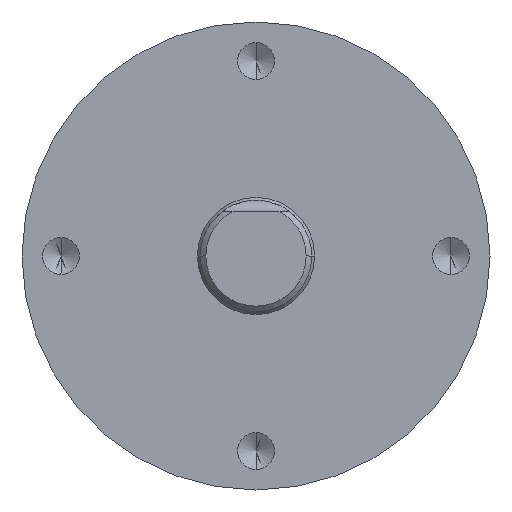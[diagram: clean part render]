
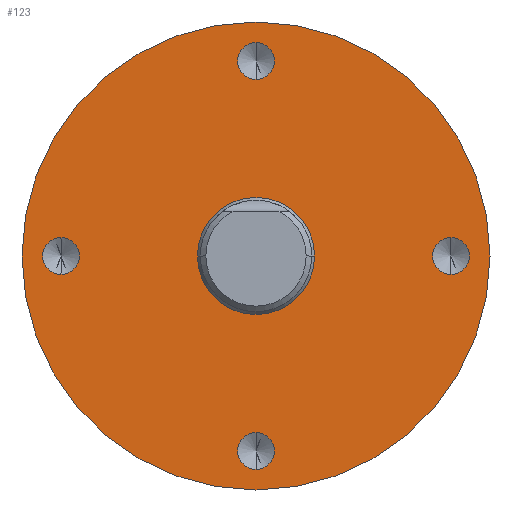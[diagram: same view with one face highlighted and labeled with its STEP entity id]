
A CAD part, front view. The second image highlights one B-rep face of the part: STEP entity #123.
In plain terms, the highlighted planar face has unit normal (0, -1, 0).
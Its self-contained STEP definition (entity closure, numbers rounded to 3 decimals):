
#4 = EDGE_CURVE ( 'NONE', #5, #95, #578, .T. ) ;
#5 = VERTEX_POINT ( 'NONE', #573 ) ;
#26 = VERTEX_POINT ( 'NONE', #451 ) ;
#28 = VERTEX_POINT ( 'NONE', #488 ) ;
#32 = EDGE_CURVE ( 'NONE', #28, #207, #486, .T. ) ;
#38 = VERTEX_POINT ( 'NONE', #473 ) ;
#41 = EDGE_CURVE ( 'NONE', #38, #26, #628, .T. ) ;
#95 = VERTEX_POINT ( 'NONE', #713 ) ;
#115 = VERTEX_POINT ( 'NONE', #756 ) ;
#122 = EDGE_CURVE ( 'NONE', #312, #115, #773, .T. ) ;
#123 = ADVANCED_FACE ( 'NONE', ( #742, #741, #740, #739, #738, #737 ), #736, .F. ) ;
#154 = VERTEX_POINT ( 'NONE', #825 ) ;
#172 = EDGE_CURVE ( 'NONE', #240, #239, #880, .T. ) ;
#173 = EDGE_LOOP ( 'NONE', ( #310, #311 ) ) ;
#207 = VERTEX_POINT ( 'NONE', #1068 ) ;
#238 = EDGE_CURVE ( 'NONE', #239, #240, #1056, .T. ) ;
#239 = VERTEX_POINT ( 'NONE', #1051 ) ;
#240 = VERTEX_POINT ( 'NONE', #1050 ) ;
#244 = EDGE_CURVE ( 'NONE', #154, #266, #959, .T. ) ;
#266 = VERTEX_POINT ( 'NONE', #1122 ) ;
#275 = EDGE_LOOP ( 'NONE', ( #276, #278 ) ) ;
#276 = ORIENTED_EDGE ( 'NONE', *, *, #277, .F. ) ;
#277 = EDGE_CURVE ( 'NONE', #95, #5, #1109, .T. ) ;
#278 = ORIENTED_EDGE ( 'NONE', *, *, #4, .F. ) ;
#282 = EDGE_LOOP ( 'NONE', ( #283, #284 ) ) ;
#283 = ORIENTED_EDGE ( 'NONE', *, *, #238, .F. ) ;
#284 = ORIENTED_EDGE ( 'NONE', *, *, #172, .F. ) ;
#291 = ORIENTED_EDGE ( 'NONE', *, *, #32, .F. ) ;
#292 = EDGE_LOOP ( 'NONE', ( #343, #348 ) ) ;
#293 = ORIENTED_EDGE ( 'NONE', *, *, #294, .F. ) ;
#294 = EDGE_CURVE ( 'NONE', #207, #28, #1128, .T. ) ;
#310 = ORIENTED_EDGE ( 'NONE', *, *, #366, .T. ) ;
#311 = ORIENTED_EDGE ( 'NONE', *, *, #122, .T. ) ;
#312 = VERTEX_POINT ( 'NONE', #1106 ) ;
#321 = EDGE_LOOP ( 'NONE', ( #322, #363 ) ) ;
#322 = ORIENTED_EDGE ( 'NONE', *, *, #323, .F. ) ;
#323 = EDGE_CURVE ( 'NONE', #266, #154, #1130, .T. ) ;
#333 = EDGE_LOOP ( 'NONE', ( #293, #291 ) ) ;
#343 = ORIENTED_EDGE ( 'NONE', *, *, #344, .F. ) ;
#344 = EDGE_CURVE ( 'NONE', #26, #38, #1278, .T. ) ;
#348 = ORIENTED_EDGE ( 'NONE', *, *, #41, .F. ) ;
#363 = ORIENTED_EDGE ( 'NONE', *, *, #244, .F. ) ;
#366 = EDGE_CURVE ( 'NONE', #115, #312, #1169, .T. ) ;
#451 = CARTESIAN_POINT ( 'NONE',  ( 17.5, -24.6, 1.65 ) ) ;
#473 = CARTESIAN_POINT ( 'NONE',  ( 17.5, -24.6, -1.65 ) ) ;
#482 = DIRECTION ( 'NONE',  ( 0., 0., 1. ) ) ;
#483 = DIRECTION ( 'NONE',  ( 0., -1., 0. ) ) ;
#484 = CARTESIAN_POINT ( 'NONE',  ( 0., -24.6, 17.5 ) ) ;
#485 = AXIS2_PLACEMENT_3D ( 'NONE', #484, #483, #482 ) ;
#486 = CIRCLE ( 'NONE', #485, 1.65 ) ;
#488 = CARTESIAN_POINT ( 'NONE',  ( 0., -24.6, 15.85 ) ) ;
#573 = CARTESIAN_POINT ( 'NONE',  ( -17.5, -24.6, -1.65 ) ) ;
#574 = DIRECTION ( 'NONE',  ( 0., 0., 1. ) ) ;
#575 = DIRECTION ( 'NONE',  ( 0., -1., 0. ) ) ;
#576 = CARTESIAN_POINT ( 'NONE',  ( -17.5, -24.6, 0. ) ) ;
#577 = AXIS2_PLACEMENT_3D ( 'NONE', #576, #575, #574 ) ;
#578 = CIRCLE ( 'NONE', #577, 1.65 ) ;
#618 = AXIS2_PLACEMENT_3D ( 'NONE', #658, #708, #707 ) ;
#628 = CIRCLE ( 'NONE', #618, 1.65 ) ;
#658 = CARTESIAN_POINT ( 'NONE',  ( 17.5, -24.6, 0. ) ) ;
#707 = DIRECTION ( 'NONE',  ( 0., 0., 1. ) ) ;
#708 = DIRECTION ( 'NONE',  ( 0., -1., 0. ) ) ;
#713 = CARTESIAN_POINT ( 'NONE',  ( -17.5, -24.6, 1.65 ) ) ;
#732 = DIRECTION ( 'NONE',  ( 0., 0., -1. ) ) ;
#733 = DIRECTION ( 'NONE',  ( 0., 1., 0. ) ) ;
#734 = CARTESIAN_POINT ( 'NONE',  ( -21., -24.6, 0. ) ) ;
#735 = AXIS2_PLACEMENT_3D ( 'NONE', #734, #733, #732 ) ;
#736 = PLANE ( 'NONE',  #735 ) ;
#737 = FACE_OUTER_BOUND ( 'NONE', #173, .T. ) ;
#738 = FACE_BOUND ( 'NONE', #282, .T. ) ;
#739 = FACE_BOUND ( 'NONE', #321, .T. ) ;
#740 = FACE_BOUND ( 'NONE', #292, .T. ) ;
#741 = FACE_BOUND ( 'NONE', #333, .T. ) ;
#742 = FACE_BOUND ( 'NONE', #275, .T. ) ;
#743 = DIRECTION ( 'NONE',  ( 0., 0., 1. ) ) ;
#744 = DIRECTION ( 'NONE',  ( 0., -1., 0. ) ) ;
#756 = CARTESIAN_POINT ( 'NONE',  ( 0., -24.6, 21. ) ) ;
#767 = CARTESIAN_POINT ( 'NONE',  ( 0., -24.6, 0. ) ) ;
#768 = AXIS2_PLACEMENT_3D ( 'NONE', #767, #744, #743 ) ;
#773 = CIRCLE ( 'NONE', #768, 21. ) ;
#793 = DIRECTION ( 'NONE',  ( 0., 0., 1. ) ) ;
#794 = DIRECTION ( 'NONE',  ( 0., -1., 0. ) ) ;
#795 = CARTESIAN_POINT ( 'NONE',  ( 0., -24.6, 0. ) ) ;
#796 = AXIS2_PLACEMENT_3D ( 'NONE', #795, #794, #793 ) ;
#825 = CARTESIAN_POINT ( 'NONE',  ( 0., -24.6, -19.15 ) ) ;
#880 = CIRCLE ( 'NONE', #796, 5.25 ) ;
#959 = CIRCLE ( 'NONE', #999, 1.65 ) ;
#996 = DIRECTION ( 'NONE',  ( 0., 0., 1. ) ) ;
#997 = DIRECTION ( 'NONE',  ( 0., -1., 0. ) ) ;
#998 = CARTESIAN_POINT ( 'NONE',  ( 0., -24.6, -17.5 ) ) ;
#999 = AXIS2_PLACEMENT_3D ( 'NONE', #998, #997, #996 ) ;
#1050 = CARTESIAN_POINT ( 'NONE',  ( 0., -24.6, 5.25 ) ) ;
#1051 = CARTESIAN_POINT ( 'NONE',  ( 0., -24.6, -5.25 ) ) ;
#1052 = DIRECTION ( 'NONE',  ( 0., 0., 1. ) ) ;
#1053 = DIRECTION ( 'NONE',  ( 0., -1., 0. ) ) ;
#1054 = CARTESIAN_POINT ( 'NONE',  ( 0., -24.6, 0. ) ) ;
#1055 = AXIS2_PLACEMENT_3D ( 'NONE', #1054, #1053, #1052 ) ;
#1056 = CIRCLE ( 'NONE', #1055, 5.25 ) ;
#1068 = CARTESIAN_POINT ( 'NONE',  ( 0., -24.6, 19.15 ) ) ;
#1078 = CARTESIAN_POINT ( 'NONE',  ( 17.5, -24.6, 0. ) ) ;
#1106 = CARTESIAN_POINT ( 'NONE',  ( 0., -24.6, -21. ) ) ;
#1107 = CARTESIAN_POINT ( 'NONE',  ( -17.5, -24.6, 0. ) ) ;
#1108 = AXIS2_PLACEMENT_3D ( 'NONE', #1107, #1219, #1218 ) ;
#1109 = CIRCLE ( 'NONE', #1108, 1.65 ) ;
#1110 = CARTESIAN_POINT ( 'NONE',  ( 0., -24.6, 17.5 ) ) ;
#1122 = CARTESIAN_POINT ( 'NONE',  ( 0., -24.6, -15.85 ) ) ;
#1125 = DIRECTION ( 'NONE',  ( 0., 0., 1. ) ) ;
#1126 = DIRECTION ( 'NONE',  ( 0., -1., 0. ) ) ;
#1127 = AXIS2_PLACEMENT_3D ( 'NONE', #1110, #1126, #1125 ) ;
#1128 = CIRCLE ( 'NONE', #1127, 1.65 ) ;
#1129 = AXIS2_PLACEMENT_3D ( 'NONE', #1245, #1244, #1243 ) ;
#1130 = CIRCLE ( 'NONE', #1129, 1.65 ) ;
#1165 = DIRECTION ( 'NONE',  ( 0., 0., 1. ) ) ;
#1166 = DIRECTION ( 'NONE',  ( 0., -1., 0. ) ) ;
#1167 = CARTESIAN_POINT ( 'NONE',  ( 0., -24.6, 0. ) ) ;
#1168 = AXIS2_PLACEMENT_3D ( 'NONE', #1167, #1166, #1165 ) ;
#1169 = CIRCLE ( 'NONE', #1168, 21. ) ;
#1218 = DIRECTION ( 'NONE',  ( 0., 0., 1. ) ) ;
#1219 = DIRECTION ( 'NONE',  ( 0., -1., 0. ) ) ;
#1243 = DIRECTION ( 'NONE',  ( 0., 0., 1. ) ) ;
#1244 = DIRECTION ( 'NONE',  ( 0., -1., 0. ) ) ;
#1245 = CARTESIAN_POINT ( 'NONE',  ( 0., -24.6, -17.5 ) ) ;
#1275 = DIRECTION ( 'NONE',  ( 0., 0., 1. ) ) ;
#1276 = DIRECTION ( 'NONE',  ( 0., -1., 0. ) ) ;
#1277 = AXIS2_PLACEMENT_3D ( 'NONE', #1078, #1276, #1275 ) ;
#1278 = CIRCLE ( 'NONE', #1277, 1.65 ) ;
